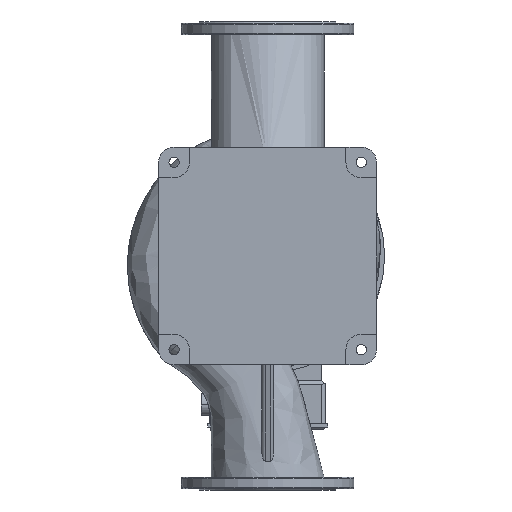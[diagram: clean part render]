
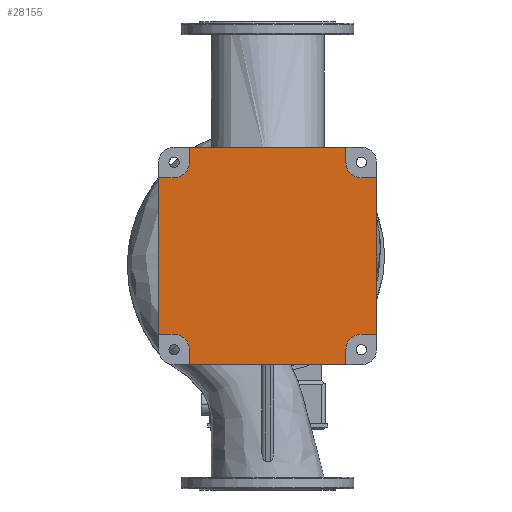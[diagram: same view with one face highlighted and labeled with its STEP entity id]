
A CAD part, front view. The second image highlights one B-rep face of the part: STEP entity #28155.
In plain terms, the highlighted planar face has unit normal (0, -1, 0).
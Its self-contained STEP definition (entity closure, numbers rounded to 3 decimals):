
#359 = EDGE_CURVE ( 'NONE', #30860, #29994, #30158, .T. ) ;
#557 = EDGE_CURVE ( 'NONE', #8318, #2267, #25791, .T. ) ;
#667 = VECTOR ( 'NONE', #32445, 1000. ) ;
#728 = ORIENTED_EDGE ( 'NONE', *, *, #359, .T. ) ;
#1444 = CARTESIAN_POINT ( 'NONE',  ( -220., -295., -184. ) ) ;
#1675 = EDGE_CURVE ( 'NONE', #7470, #10277, #12952, .T. ) ;
#2094 = VECTOR ( 'NONE', #18279, 1000. ) ;
#2267 = VERTEX_POINT ( 'NONE', #34915 ) ;
#2973 = CARTESIAN_POINT ( 'NONE',  ( 220., -295., -184. ) ) ;
#3917 = ORIENTED_EDGE ( 'NONE', *, *, #23990, .T. ) ;
#4094 = CARTESIAN_POINT ( 'NONE',  ( 220., -295., 220. ) ) ;
#4444 = EDGE_CURVE ( 'NONE', #29994, #25228, #27122, .T. ) ;
#4509 = CARTESIAN_POINT ( 'NONE',  ( -184., -295., 220. ) ) ;
#4703 = EDGE_CURVE ( 'NONE', #13414, #5432, #33193, .T. ) ;
#4829 = CARTESIAN_POINT ( 'NONE',  ( 256., -295., 184. ) ) ;
#5201 = VECTOR ( 'NONE', #11802, 1000. ) ;
#5432 = VERTEX_POINT ( 'NONE', #10197 ) ;
#5575 = AXIS2_PLACEMENT_3D ( 'NONE', #22811, #19948, #32996 ) ;
#5907 = LINE ( 'NONE', #24527, #20280 ) ;
#6324 = CARTESIAN_POINT ( 'NONE',  ( -220., -295., 184. ) ) ;
#6673 = CARTESIAN_POINT ( 'NONE',  ( -220., -295., 220. ) ) ;
#6783 = DIRECTION ( 'NONE',  ( 0., 1., 0. ) ) ;
#7063 = DIRECTION ( 'NONE',  ( 0., 0., -1. ) ) ;
#7360 = VERTEX_POINT ( 'NONE', #15090 ) ;
#7470 = VERTEX_POINT ( 'NONE', #12037 ) ;
#7514 = EDGE_CURVE ( 'NONE', #15860, #13414, #11869, .T. ) ;
#7561 = CARTESIAN_POINT ( 'NONE',  ( -220., -295., -184. ) ) ;
#7933 = CARTESIAN_POINT ( 'NONE',  ( -184., -295., -220. ) ) ;
#8035 = AXIS2_PLACEMENT_3D ( 'NONE', #33467, #20405, #11615 ) ;
#8318 = VERTEX_POINT ( 'NONE', #24779 ) ;
#8448 = CARTESIAN_POINT ( 'NONE',  ( -184., -295., 256. ) ) ;
#9294 = CARTESIAN_POINT ( 'NONE',  ( 184., -295., -256. ) ) ;
#9700 = VECTOR ( 'NONE', #16007, 1000. ) ;
#9961 = CARTESIAN_POINT ( 'NONE',  ( 184., -295., 220. ) ) ;
#10197 = CARTESIAN_POINT ( 'NONE',  ( 220., -295., 184. ) ) ;
#10260 = EDGE_LOOP ( 'NONE', ( #728, #26798, #24968, #28937, #11880, #17862, #20895, #18706, #32885, #3917, #26621, #24754, #34325, #30682, #13749, #13178 ) ) ;
#10277 = VERTEX_POINT ( 'NONE', #18237 ) ;
#11259 = CARTESIAN_POINT ( 'NONE',  ( 220., -295., -220. ) ) ;
#11615 = DIRECTION ( 'NONE',  ( 0., 0., 1. ) ) ;
#11718 = VERTEX_POINT ( 'NONE', #25772 ) ;
#11802 = DIRECTION ( 'NONE',  ( 0., 0., 1. ) ) ;
#11856 = VERTEX_POINT ( 'NONE', #21264 ) ;
#11869 = LINE ( 'NONE', #28344, #2094 ) ;
#11880 = ORIENTED_EDGE ( 'NONE', *, *, #13964, .T. ) ;
#11969 = LINE ( 'NONE', #9294, #31907 ) ;
#12037 = CARTESIAN_POINT ( 'NONE',  ( 184., -295., -256. ) ) ;
#12181 = AXIS2_PLACEMENT_3D ( 'NONE', #4094, #6783, #34509 ) ;
#12465 = DIRECTION ( 'NONE',  ( 0., 0., 1. ) ) ;
#12865 = VERTEX_POINT ( 'NONE', #8448 ) ;
#12952 = LINE ( 'NONE', #23885, #5201 ) ;
#13178 = ORIENTED_EDGE ( 'NONE', *, *, #19128, .T. ) ;
#13414 = VERTEX_POINT ( 'NONE', #4829 ) ;
#13749 = ORIENTED_EDGE ( 'NONE', *, *, #25494, .T. ) ;
#13964 = EDGE_CURVE ( 'NONE', #10277, #15380, #26654, .T. ) ;
#14299 = DIRECTION ( 'NONE',  ( 1., 0., 0. ) ) ;
#15066 = EDGE_CURVE ( 'NONE', #25228, #7470, #11969, .T. ) ;
#15072 = CARTESIAN_POINT ( 'NONE',  ( 220., -295., -184. ) ) ;
#15090 = CARTESIAN_POINT ( 'NONE',  ( 184., -295., 220. ) ) ;
#15141 = LINE ( 'NONE', #31927, #21248 ) ;
#15380 = VERTEX_POINT ( 'NONE', #2973 ) ;
#15445 = DIRECTION ( 'NONE',  ( 0., 0., -1. ) ) ;
#15478 = CARTESIAN_POINT ( 'NONE',  ( -184., -295., -220. ) ) ;
#15484 = VECTOR ( 'NONE', #15445, 1000. ) ;
#15529 = CARTESIAN_POINT ( 'NONE',  ( 256., -295., -184. ) ) ;
#15860 = VERTEX_POINT ( 'NONE', #15529 ) ;
#16007 = DIRECTION ( 'NONE',  ( 0., 0., -1. ) ) ;
#16646 = DIRECTION ( 'NONE',  ( -1., 0., 0. ) ) ;
#16902 = EDGE_CURVE ( 'NONE', #15380, #15860, #25994, .T. ) ;
#17174 = PLANE ( 'NONE',  #8035 ) ;
#17862 = ORIENTED_EDGE ( 'NONE', *, *, #16902, .T. ) ;
#18146 = DIRECTION ( 'NONE',  ( -1., 0., 0. ) ) ;
#18237 = CARTESIAN_POINT ( 'NONE',  ( 184., -295., -220. ) ) ;
#18279 = DIRECTION ( 'NONE',  ( 0., 0., 1. ) ) ;
#18706 = ORIENTED_EDGE ( 'NONE', *, *, #4703, .T. ) ;
#18863 = VECTOR ( 'NONE', #31184, 1000. ) ;
#18982 = VECTOR ( 'NONE', #30303, 1000. ) ;
#19128 = EDGE_CURVE ( 'NONE', #11856, #30860, #26901, .T. ) ;
#19948 = DIRECTION ( 'NONE',  ( 0., 1., 0. ) ) ;
#20165 = VECTOR ( 'NONE', #12465, 1000. ) ;
#20280 = VECTOR ( 'NONE', #16646, 1000. ) ;
#20405 = DIRECTION ( 'NONE',  ( 0., 1., 0. ) ) ;
#20895 = ORIENTED_EDGE ( 'NONE', *, *, #7514, .T. ) ;
#21248 = VECTOR ( 'NONE', #7063, 1000. ) ;
#21264 = CARTESIAN_POINT ( 'NONE',  ( -256., -295., -184. ) ) ;
#22250 = VERTEX_POINT ( 'NONE', #26991 ) ;
#22811 = CARTESIAN_POINT ( 'NONE',  ( -220., -295., -220. ) ) ;
#23067 = CIRCLE ( 'NONE', #12181, 36. ) ;
#23885 = CARTESIAN_POINT ( 'NONE',  ( 184., -295., -220. ) ) ;
#23990 = EDGE_CURVE ( 'NONE', #7360, #11718, #31953, .T. ) ;
#24527 = CARTESIAN_POINT ( 'NONE',  ( -184., -295., 256. ) ) ;
#24754 = ORIENTED_EDGE ( 'NONE', *, *, #31845, .T. ) ;
#24779 = CARTESIAN_POINT ( 'NONE',  ( -184., -295., 220. ) ) ;
#24968 = ORIENTED_EDGE ( 'NONE', *, *, #15066, .T. ) ;
#25228 = VERTEX_POINT ( 'NONE', #28239 ) ;
#25494 = EDGE_CURVE ( 'NONE', #22250, #11856, #15141, .T. ) ;
#25734 = EDGE_CURVE ( 'NONE', #2267, #22250, #30862, .T. ) ;
#25772 = CARTESIAN_POINT ( 'NONE',  ( 184., -295., 256. ) ) ;
#25791 = CIRCLE ( 'NONE', #30330, 36. ) ;
#25994 = LINE ( 'NONE', #15072, #18863 ) ;
#26621 = ORIENTED_EDGE ( 'NONE', *, *, #35391, .T. ) ;
#26654 = CIRCLE ( 'NONE', #28949, 36. ) ;
#26798 = ORIENTED_EDGE ( 'NONE', *, *, #4444, .T. ) ;
#26901 = LINE ( 'NONE', #7561, #667 ) ;
#26991 = CARTESIAN_POINT ( 'NONE',  ( -256., -295., 184. ) ) ;
#27122 = LINE ( 'NONE', #7933, #9700 ) ;
#27986 = VECTOR ( 'NONE', #18146, 1000. ) ;
#28155 = ADVANCED_FACE ( 'NONE', ( #33632 ), #17174, .F. ) ;
#28239 = CARTESIAN_POINT ( 'NONE',  ( -184., -295., -256. ) ) ;
#28344 = CARTESIAN_POINT ( 'NONE',  ( 256., -295., 184. ) ) ;
#28937 = ORIENTED_EDGE ( 'NONE', *, *, #1675, .T. ) ;
#28949 = AXIS2_PLACEMENT_3D ( 'NONE', #11259, #30412, #32554 ) ;
#29042 = LINE ( 'NONE', #4509, #15484 ) ;
#29994 = VERTEX_POINT ( 'NONE', #15478 ) ;
#30158 = CIRCLE ( 'NONE', #5575, 36. ) ;
#30303 = DIRECTION ( 'NONE',  ( -1., 0., 0. ) ) ;
#30330 = AXIS2_PLACEMENT_3D ( 'NONE', #6673, #31208, #34064 ) ;
#30412 = DIRECTION ( 'NONE',  ( 0., 1., 0. ) ) ;
#30513 = CARTESIAN_POINT ( 'NONE',  ( 220., -295., 184. ) ) ;
#30682 = ORIENTED_EDGE ( 'NONE', *, *, #25734, .T. ) ;
#30860 = VERTEX_POINT ( 'NONE', #1444 ) ;
#30862 = LINE ( 'NONE', #6324, #18982 ) ;
#31184 = DIRECTION ( 'NONE',  ( 1., 0., 0. ) ) ;
#31208 = DIRECTION ( 'NONE',  ( 0., 1., 0. ) ) ;
#31277 = EDGE_CURVE ( 'NONE', #5432, #7360, #23067, .T. ) ;
#31845 = EDGE_CURVE ( 'NONE', #12865, #8318, #29042, .T. ) ;
#31907 = VECTOR ( 'NONE', #14299, 1000. ) ;
#31927 = CARTESIAN_POINT ( 'NONE',  ( -256., -295., -184. ) ) ;
#31953 = LINE ( 'NONE', #9961, #20165 ) ;
#32445 = DIRECTION ( 'NONE',  ( 1., 0., 0. ) ) ;
#32554 = DIRECTION ( 'NONE',  ( 0., 0., 1. ) ) ;
#32885 = ORIENTED_EDGE ( 'NONE', *, *, #31277, .T. ) ;
#32996 = DIRECTION ( 'NONE',  ( 0., 0., 1. ) ) ;
#33193 = LINE ( 'NONE', #30513, #27986 ) ;
#33467 = CARTESIAN_POINT ( 'NONE',  ( -220., -295., -220. ) ) ;
#33632 = FACE_OUTER_BOUND ( 'NONE', #10260, .T. ) ;
#34064 = DIRECTION ( 'NONE',  ( 0., 0., 1. ) ) ;
#34325 = ORIENTED_EDGE ( 'NONE', *, *, #557, .T. ) ;
#34509 = DIRECTION ( 'NONE',  ( 0., 0., 1. ) ) ;
#34915 = CARTESIAN_POINT ( 'NONE',  ( -220., -295., 184. ) ) ;
#35391 = EDGE_CURVE ( 'NONE', #11718, #12865, #5907, .T. ) ;
